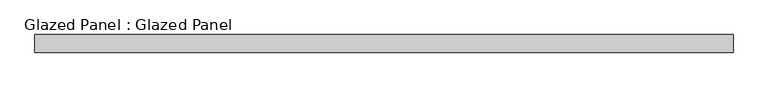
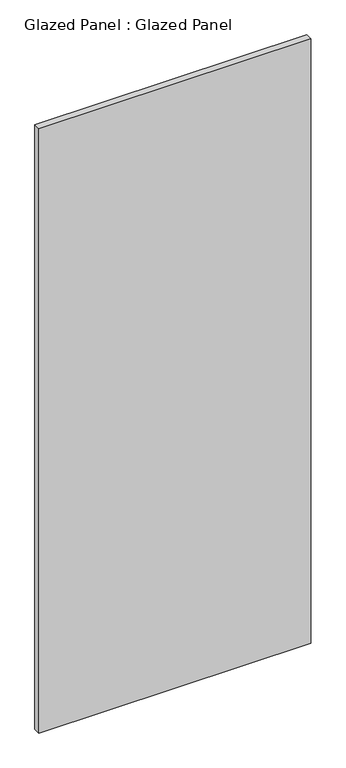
"""IFC4 building model written with IfcOpenShell, lengths in millimetres: plate geometry, Glazed Panel : Glazed Panel."""

from ifc_helpers import new_model, si_unit, origin, origin_with_axes, place, context, project, spatial, polyline, outline, extrude, source, transform, mapped, element, save


def glazed_panel_glazed_panel_1e96fca1(model_context):
    return source(origin(), model_context, "Body", "SweptSolid", [
        extrude(outline(polyline([(498.7728003, 38.1), (-498.7728003, 38.1), (-498.7728003, 63.5), (498.7728003, 63.5), (498.7728003, 38.1)])), origin_with_axes(), (0.0, 0.0, 1.0), 2343.15),
    ])


if __name__ == "__main__":
    model = new_model("IFC4")
    model_context = context("Model", 3, world=origin())
    ifc_project = project(units=[si_unit("LENGTHUNIT", "METRE", prefix="MILLI")], contexts=[model_context])
    site = spatial("IfcSite", under=ifc_project)
    building = spatial("IfcBuilding", under=site)
    placement = place(None, origin())
    glazed_panel_glazed_panel_shape = glazed_panel_glazed_panel_1e96fca1(model_context)
    element("IfcPlate", 1, ObjectType="Glazed Panel : Glazed Panel", at=placement, inside=building, context=model_context, shape_type="MappedRepresentation", body=[
        mapped(glazed_panel_glazed_panel_shape, transform((0.0, 0.0, 0.0), x_axis=(1.0, 0.0, 0.0), y_axis=(0.0, 1.0, 0.0), z_axis=(0.0, 0.0, 1.0))),
    ])
    save(model, "model.ifc")
